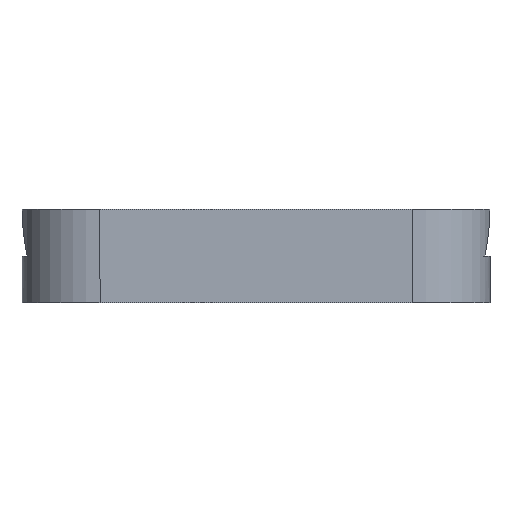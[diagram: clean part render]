
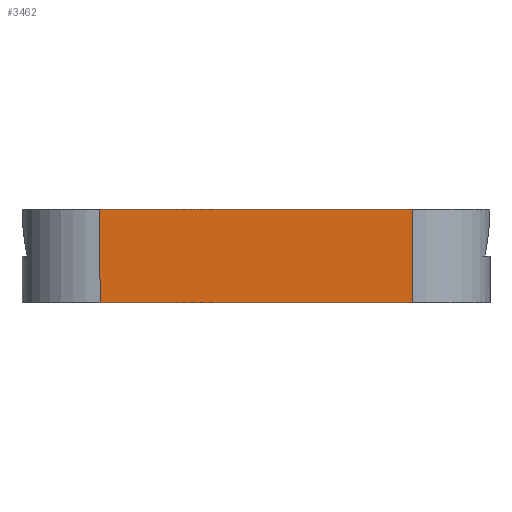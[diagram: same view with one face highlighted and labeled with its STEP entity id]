
A CAD part, front view. The second image highlights one B-rep face of the part: STEP entity #3462.
In plain terms, the highlighted planar face has unit normal (0, -1, 0).
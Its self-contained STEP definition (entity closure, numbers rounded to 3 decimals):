
#12 = VERTEX_POINT ( 'NONE', #3491 ) ;
#246 = ORIENTED_EDGE ( 'NONE', *, *, #3417, .T. ) ;
#248 = VECTOR ( 'NONE', #2523, 1000. ) ;
#356 = ORIENTED_EDGE ( 'NONE', *, *, #482, .T. ) ;
#472 = EDGE_CURVE ( 'NONE', #3926, #594, #2823, .T. ) ;
#482 = EDGE_CURVE ( 'NONE', #12, #924, #1915, .T. ) ;
#564 = CARTESIAN_POINT ( 'NONE',  ( -30., -45., 12. ) ) ;
#594 = VERTEX_POINT ( 'NONE', #656 ) ;
#656 = CARTESIAN_POINT ( 'NONE',  ( -20., -45., 12. ) ) ;
#841 = AXIS2_PLACEMENT_3D ( 'NONE', #2486, #2176, #2499 ) ;
#924 = VERTEX_POINT ( 'NONE', #3912 ) ;
#942 = VECTOR ( 'NONE', #3944, 1000. ) ;
#1209 = CARTESIAN_POINT ( 'NONE',  ( -20., -45., 0. ) ) ;
#1523 = VECTOR ( 'NONE', #3313, 1000. ) ;
#1533 = CARTESIAN_POINT ( 'NONE',  ( 20., -45., 0. ) ) ;
#1535 = CARTESIAN_POINT ( 'NONE',  ( 20., -45., 12. ) ) ;
#1764 = EDGE_CURVE ( 'NONE', #924, #3926, #2137, .T. ) ;
#1782 = CARTESIAN_POINT ( 'NONE',  ( -30., -45., 0. ) ) ;
#1915 = LINE ( 'NONE', #1782, #1523 ) ;
#2110 = DIRECTION ( 'NONE',  ( 0., 0., -1. ) ) ;
#2137 = LINE ( 'NONE', #1533, #248 ) ;
#2176 = DIRECTION ( 'NONE',  ( 0., -1., 0. ) ) ;
#2307 = ORIENTED_EDGE ( 'NONE', *, *, #1764, .T. ) ;
#2486 = CARTESIAN_POINT ( 'NONE',  ( 0., -45., 0. ) ) ;
#2499 = DIRECTION ( 'NONE',  ( 0., 0., -1. ) ) ;
#2523 = DIRECTION ( 'NONE',  ( 0., 0., 1. ) ) ;
#2823 = LINE ( 'NONE', #564, #942 ) ;
#3105 = PLANE ( 'NONE',  #841 ) ;
#3313 = DIRECTION ( 'NONE',  ( 1., 0., 0. ) ) ;
#3417 = EDGE_CURVE ( 'NONE', #594, #12, #3737, .T. ) ;
#3462 = ADVANCED_FACE ( 'NONE', ( #3825 ), #3105, .T. ) ;
#3491 = CARTESIAN_POINT ( 'NONE',  ( -20., -45., 0. ) ) ;
#3613 = EDGE_LOOP ( 'NONE', ( #3901, #246, #356, #2307 ) ) ;
#3737 = LINE ( 'NONE', #1209, #3781 ) ;
#3781 = VECTOR ( 'NONE', #2110, 1000. ) ;
#3825 = FACE_OUTER_BOUND ( 'NONE', #3613, .T. ) ;
#3901 = ORIENTED_EDGE ( 'NONE', *, *, #472, .T. ) ;
#3912 = CARTESIAN_POINT ( 'NONE',  ( 20., -45., 0. ) ) ;
#3926 = VERTEX_POINT ( 'NONE', #1535 ) ;
#3944 = DIRECTION ( 'NONE',  ( -1., 0., 0. ) ) ;
